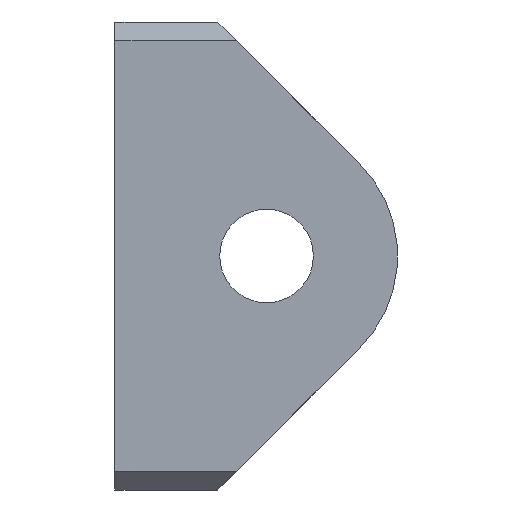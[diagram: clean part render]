
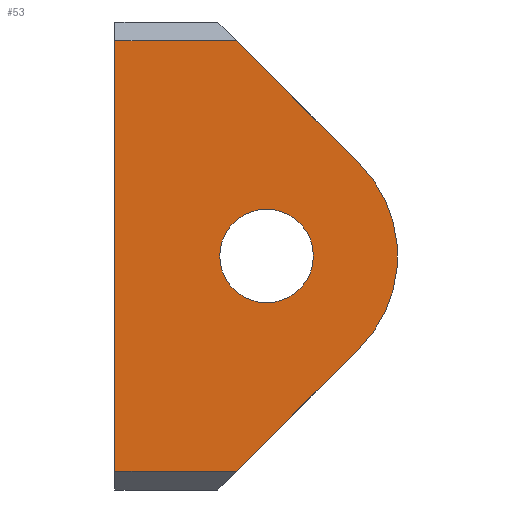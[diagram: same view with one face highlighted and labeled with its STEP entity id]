
A CAD part, left-side view. The second image highlights one B-rep face of the part: STEP entity #53.
In plain terms, the highlighted planar face has unit normal (-1, 0, 0).
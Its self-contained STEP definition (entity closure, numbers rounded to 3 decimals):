
#53=ADVANCED_FACE('',(#117,#118),#119,.T.);
#117=FACE_OUTER_BOUND('',#194,.T.);
#118=FACE_BOUND('',#195,.T.);
#119=PLANE('',#196);
#194=EDGE_LOOP('',(#293,#294,#295,#296,#297,#298));
#195=EDGE_LOOP('',(#299));
#196=AXIS2_PLACEMENT_3D('',#300,#301,#302);
#293=ORIENTED_EDGE('',*,*,#414,.T.);
#294=ORIENTED_EDGE('',*,*,#410,.T.);
#295=ORIENTED_EDGE('',*,*,#426,.T.);
#296=ORIENTED_EDGE('',*,*,#429,.T.);
#297=ORIENTED_EDGE('',*,*,#430,.T.);
#298=ORIENTED_EDGE('',*,*,#431,.T.);
#299=ORIENTED_EDGE('',*,*,#432,.F.);
#300=CARTESIAN_POINT('',(-70.9,-19.0,0.));
#301=DIRECTION('',(-1.0,0.0,0.));
#302=DIRECTION('',(0.,0.0,1.0));
#410=EDGE_CURVE('',#471,#475,#477,.T.);
#414=EDGE_CURVE('',#482,#471,#483,.T.);
#426=EDGE_CURVE('',#475,#500,#502,.T.);
#429=EDGE_CURVE('',#500,#506,#507,.T.);
#430=EDGE_CURVE('',#506,#508,#509,.T.);
#431=EDGE_CURVE('',#508,#482,#510,.T.);
#432=EDGE_CURVE('',#511,#511,#512,.T.);
#471=VERTEX_POINT('',#564);
#475=VERTEX_POINT('',#570);
#477=LINE('',#573,#574);
#482=VERTEX_POINT('',#581);
#483=LINE('',#582,#583);
#500=VERTEX_POINT('',#605);
#502=LINE('',#608,#609);
#506=VERTEX_POINT('',#613);
#507=LINE('',#614,#615);
#508=VERTEX_POINT('',#616);
#509=LINE('',#617,#618);
#510=CIRCLE('',#619,14.0);
#511=VERTEX_POINT('',#620);
#512=CIRCLE('',#621,5.0);
#564=CARTESIAN_POINT('',(-70.9,-15.799,23.0));
#570=CARTESIAN_POINT('',(-70.9,-2.799,23.0));
#573=CARTESIAN_POINT('',(-70.9,-2.799,23.0));
#574=VECTOR('',#673,1.0);
#581=CARTESIAN_POINT('',(-70.9,-28.899,9.899));
#582=CARTESIAN_POINT('',(-70.9,-21.349,17.45));
#583=VECTOR('',#676,1.0);
#605=CARTESIAN_POINT('',(-70.9,-2.799,-23.0));
#608=CARTESIAN_POINT('',(-70.9,-2.799,0.));
#609=VECTOR('',#692,1.0);
#613=CARTESIAN_POINT('',(-70.9,-15.799,-23.0));
#614=CARTESIAN_POINT('',(-70.9,-13.799,-23.0));
#615=VECTOR('',#696,1.0);
#616=CARTESIAN_POINT('',(-70.9,-28.899,-9.899));
#617=CARTESIAN_POINT('',(-70.9,-21.349,-17.45));
#618=VECTOR('',#697,1.0);
#619=AXIS2_PLACEMENT_3D('',#698,#699,#700);
#620=CARTESIAN_POINT('',(-70.9,-24.0,0.));
#621=AXIS2_PLACEMENT_3D('',#701,#702,#703);
#673=DIRECTION('',(0.0,1.0,0.0));
#676=DIRECTION('',(0.,0.707,0.707));
#692=DIRECTION('',(0.,0.,-1.0));
#696=DIRECTION('',(0.,-1.0,0.));
#697=DIRECTION('',(0.,-0.707,0.707));
#698=CARTESIAN_POINT('',(-70.9,-19.0,0.));
#699=DIRECTION('',(-1.0,-0.0,0.));
#700=DIRECTION('',(0.0,-1.0,0.0));
#701=CARTESIAN_POINT('',(-70.9,-19.0,0.));
#702=DIRECTION('',(-1.0,-0.0,0.));
#703=DIRECTION('',(0.0,-1.0,0.0));
